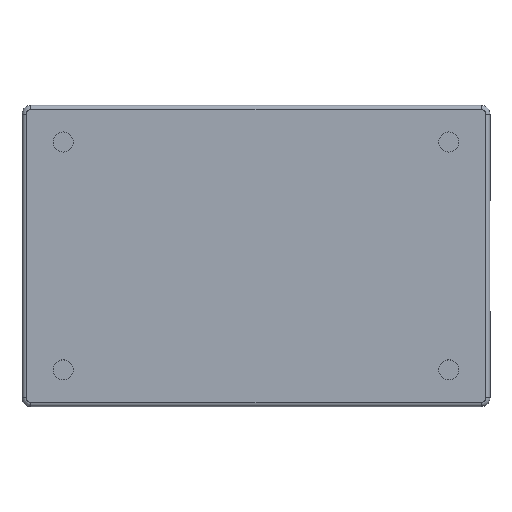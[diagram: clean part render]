
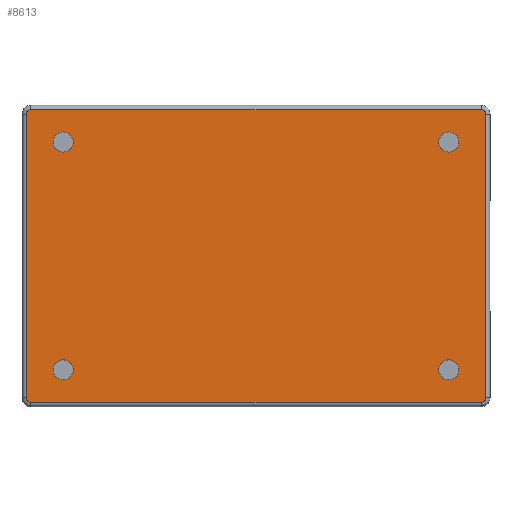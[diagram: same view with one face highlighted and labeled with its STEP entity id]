
A CAD part, top view. The second image highlights one B-rep face of the part: STEP entity #8613.
In plain terms, the highlighted planar face has unit normal (0, 0, 1) as drawn and (0, 0, -1) by its records, which use the part's own axes.
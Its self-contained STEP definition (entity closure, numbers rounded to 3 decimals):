
#282=FACE_BOUND($,#1443,.T.);
#283=FACE_BOUND($,#1444,.T.);
#284=FACE_BOUND($,#1445,.T.);
#285=FACE_BOUND($,#1446,.T.);
#286=FACE_BOUND($,#1447,.T.);
#509=PLANE($,#9198);
#1443=EDGE_LOOP($,(#7449));
#1444=EDGE_LOOP($,(#7450));
#1445=EDGE_LOOP($,(#7451));
#1446=EDGE_LOOP($,(#7452));
#1447=EDGE_LOOP($,(#7453,#7454,#7455,#7456,#7457,#7458,#7459,#7460));
#2272=LINE($,#13885,#3242);
#2275=LINE($,#13892,#3245);
#2276=LINE($,#13925,#3246);
#2279=LINE($,#13932,#3249);
#3242=VECTOR($,#10802,32.4);
#3245=VECTOR($,#10809,51.4);
#3246=VECTOR($,#10826,51.4);
#3249=VECTOR($,#10833,32.4);
#3679=CIRCLE($,#9128,1.15);
#3680=CIRCLE($,#9130,1.15);
#3681=CIRCLE($,#9132,1.15);
#3682=CIRCLE($,#9134,1.15);
#3704=CIRCLE($,#9175,0.5);
#3710=CIRCLE($,#9183,0.5);
#3714=CIRCLE($,#9187,0.5);
#3718=CIRCLE($,#9193,0.5);
#4233=VERTEX_POINT($,#13706);
#4234=VERTEX_POINT($,#13709);
#4235=VERTEX_POINT($,#13712);
#4236=VERTEX_POINT($,#13715);
#4290=VERTEX_POINT($,#13874);
#4291=VERTEX_POINT($,#13876);
#4294=VERTEX_POINT($,#13883);
#4295=VERTEX_POINT($,#13888);
#4298=VERTEX_POINT($,#13903);
#4299=VERTEX_POINT($,#13916);
#4302=VERTEX_POINT($,#13923);
#4303=VERTEX_POINT($,#13928);
#5292=EDGE_CURVE($,#4233,#4233,#3679,.T.);
#5293=EDGE_CURVE($,#4234,#4234,#3680,.T.);
#5294=EDGE_CURVE($,#4235,#4235,#3681,.T.);
#5295=EDGE_CURVE($,#4236,#4236,#3682,.T.);
#5373=EDGE_CURVE($,#4290,#4291,#3704,.T.);
#5377=EDGE_CURVE($,#4294,#4290,#2272,.T.);
#5381=EDGE_CURVE($,#4291,#4295,#2275,.T.);
#5383=EDGE_CURVE($,#4298,#4294,#3710,.T.);
#5387=EDGE_CURVE($,#4295,#4299,#3714,.T.);
#5389=EDGE_CURVE($,#4302,#4298,#2276,.T.);
#5393=EDGE_CURVE($,#4299,#4303,#2279,.T.);
#5395=EDGE_CURVE($,#4303,#4302,#3718,.T.);
#7449=ORIENTED_EDGE($,*,*,#5293,.T.);
#7450=ORIENTED_EDGE($,*,*,#5294,.T.);
#7451=ORIENTED_EDGE($,*,*,#5295,.T.);
#7452=ORIENTED_EDGE($,*,*,#5292,.T.);
#7453=ORIENTED_EDGE($,*,*,#5373,.F.);
#7454=ORIENTED_EDGE($,*,*,#5377,.F.);
#7455=ORIENTED_EDGE($,*,*,#5383,.F.);
#7456=ORIENTED_EDGE($,*,*,#5389,.F.);
#7457=ORIENTED_EDGE($,*,*,#5395,.F.);
#7458=ORIENTED_EDGE($,*,*,#5393,.F.);
#7459=ORIENTED_EDGE($,*,*,#5387,.F.);
#7460=ORIENTED_EDGE($,*,*,#5381,.F.);
#8613=ADVANCED_FACE($,(#282,#283,#284,#285,#286),#509,.F.);
#9128=AXIS2_PLACEMENT_3D($,#13707,#10642,#10643);
#9130=AXIS2_PLACEMENT_3D($,#13710,#10646,#10647);
#9132=AXIS2_PLACEMENT_3D($,#13713,#10650,#10651);
#9134=AXIS2_PLACEMENT_3D($,#13716,#10654,#10655);
#9175=AXIS2_PLACEMENT_3D($,#13877,#10792,#10793);
#9183=AXIS2_PLACEMENT_3D($,#13905,#10812,#10813);
#9187=AXIS2_PLACEMENT_3D($,#13920,#10820,#10821);
#9193=AXIS2_PLACEMENT_3D($,#13943,#10836,#10837);
#9198=AXIS2_PLACEMENT_3D($,#13953,#10851,#10852);
#10642=DIRECTION('center_axis',(0.,0.,1.));
#10643=DIRECTION('ref_axis',(1.,0.,0.));
#10646=DIRECTION('center_axis',(0.,0.,1.));
#10647=DIRECTION('ref_axis',(1.,0.,0.));
#10650=DIRECTION('center_axis',(0.,0.,1.));
#10651=DIRECTION('ref_axis',(1.,0.,0.));
#10654=DIRECTION('center_axis',(0.,0.,1.));
#10655=DIRECTION('ref_axis',(1.,0.,0.));
#10792=DIRECTION('center_axis',(0.,0.,1.));
#10793=DIRECTION('ref_axis',(-0.707,-0.707,0.));
#10802=DIRECTION($,(0.,-1.,0.));
#10809=DIRECTION($,(1.,0.,0.));
#10812=DIRECTION('center_axis',(0.,0.,1.));
#10813=DIRECTION('ref_axis',(-0.707,0.707,0.));
#10820=DIRECTION('center_axis',(0.,0.,1.));
#10821=DIRECTION('ref_axis',(0.707,-0.707,0.));
#10826=DIRECTION($,(-1.,0.,0.));
#10833=DIRECTION($,(0.,1.,0.));
#10836=DIRECTION('center_axis',(0.,0.,1.));
#10837=DIRECTION('ref_axis',(0.707,0.707,0.));
#10851=DIRECTION('center_axis',(0.,0.,1.));
#10852=DIRECTION('ref_axis',(1.,0.,0.));
#13706=CARTESIAN_POINT('',(20.85,-13.,0.));
#13707=CARTESIAN_POINT('Origin',(22.,-13.,0.));
#13709=CARTESIAN_POINT('',(20.85,13.,0.));
#13710=CARTESIAN_POINT('Origin',(22.,13.,0.));
#13712=CARTESIAN_POINT('',(-23.15,-13.,0.));
#13713=CARTESIAN_POINT('Origin',(-22.,-13.,0.));
#13715=CARTESIAN_POINT('',(-23.15,13.,0.));
#13716=CARTESIAN_POINT('Origin',(-22.,13.,0.));
#13874=CARTESIAN_POINT('',(-26.2,-16.2,0.));
#13876=CARTESIAN_POINT('',(-25.7,-16.7,0.));
#13877=CARTESIAN_POINT('Origin',(-25.7,-16.2,0.));
#13883=CARTESIAN_POINT('',(-26.2,16.2,0.));
#13885=CARTESIAN_POINT($,(-26.2,-8.6,0.));
#13888=CARTESIAN_POINT('',(25.7,-16.7,0.));
#13892=CARTESIAN_POINT($,(13.35,-16.7,0.));
#13903=CARTESIAN_POINT('',(-25.7,16.7,0.));
#13905=CARTESIAN_POINT('Origin',(-25.7,16.2,0.));
#13916=CARTESIAN_POINT('',(26.2,-16.2,0.));
#13920=CARTESIAN_POINT('Origin',(25.7,-16.2,0.));
#13923=CARTESIAN_POINT('',(25.7,16.7,0.));
#13925=CARTESIAN_POINT($,(-13.35,16.7,0.));
#13928=CARTESIAN_POINT('',(26.2,16.2,0.));
#13932=CARTESIAN_POINT($,(26.2,8.6,0.));
#13943=CARTESIAN_POINT('Origin',(25.7,16.2,0.));
#13953=CARTESIAN_POINT('Origin',(0.,0.,
0.));
